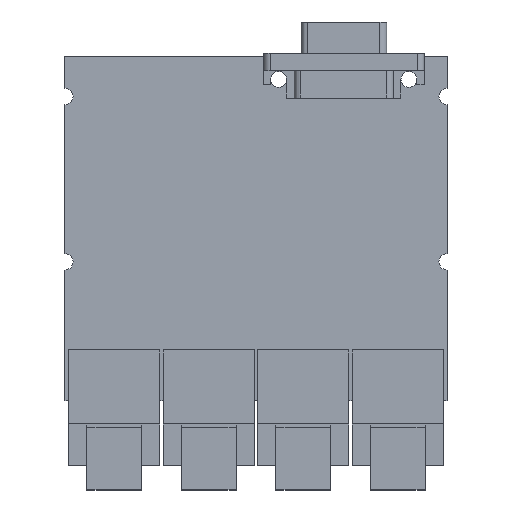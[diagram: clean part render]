
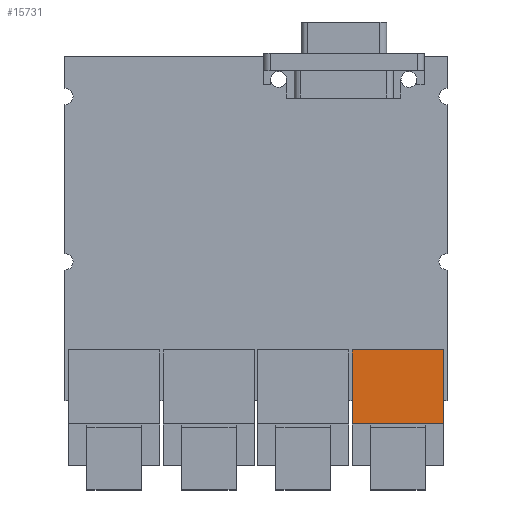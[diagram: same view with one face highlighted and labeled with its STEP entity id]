
A CAD part, top view. The second image highlights one B-rep face of the part: STEP entity #15731.
In plain terms, the highlighted planar face has unit normal (0, 0, 1).
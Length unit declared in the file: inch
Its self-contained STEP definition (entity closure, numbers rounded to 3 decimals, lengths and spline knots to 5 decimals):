
#1683=DIRECTION('',(1.,0.,0.));
#1684=VECTOR('',#1683,0.68898);
#1685=CARTESIAN_POINT('',(0.7265,-1.476,0.4872));
#1686=LINE('',#1685,#1684);
#2099=DIRECTION('',(0.,-1.,0.));
#2100=VECTOR('',#2099,0.55906);
#2101=CARTESIAN_POINT('',(1.41548,-0.91694,
0.4872));
#2102=LINE('',#2101,#2100);
#2103=DIRECTION('',(0.,-1.,0.));
#2104=VECTOR('',#2103,0.55906);
#2105=CARTESIAN_POINT('',(0.7265,-0.91694,0.4872));
#2106=LINE('',#2105,#2104);
#2107=DIRECTION('',(1.,0.,0.));
#2108=VECTOR('',#2107,0.68898);
#2109=CARTESIAN_POINT('',(0.7265,-0.91694,0.4872));
#2110=LINE('',#2109,#2108);
#12647=CARTESIAN_POINT('',(1.41548,-0.91694,
0.4872));
#12648=CARTESIAN_POINT('',(1.41548,-1.476,0.4872));
#12649=VERTEX_POINT('',#12647);
#12650=VERTEX_POINT('',#12648);
#12651=CARTESIAN_POINT('',(0.7265,-0.91694,0.4872));
#12652=CARTESIAN_POINT('',(0.7265,-1.476,0.4872));
#12653=VERTEX_POINT('',#12651);
#12654=VERTEX_POINT('',#12652);
#15720=CARTESIAN_POINT('',(-0.02547,-0.91694,
0.4872));
#15721=DIRECTION('',(0.,0.,1.));
#15722=DIRECTION('',(0.,-1.,0.));
#15723=AXIS2_PLACEMENT_3D('',#15720,#15721,#15722);
#15724=PLANE('',#15723);
#15725=ORIENTED_EDGE('',*,*,#15123,.T.);
#15726=ORIENTED_EDGE('',*,*,#15206,.F.);
#15727=ORIENTED_EDGE('',*,*,#15501,.F.);
#15728=ORIENTED_EDGE('',*,*,#15101,.T.);
#15729=EDGE_LOOP('',(#15725,#15726,#15727,#15728));
#15730=FACE_OUTER_BOUND('',#15729,.F.);
#15731=ADVANCED_FACE('',(#15730),#15724,.T.);
#15101=EDGE_CURVE('',#12653,#12649,#2110,.T.);
#15123=EDGE_CURVE('',#12649,#12650,#2102,.T.);
#15206=EDGE_CURVE('',#12654,#12650,#1686,.T.);
#15501=EDGE_CURVE('',#12653,#12654,#2106,.T.);
